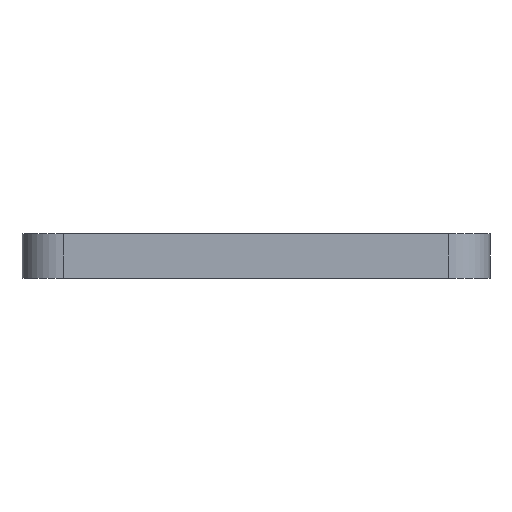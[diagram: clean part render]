
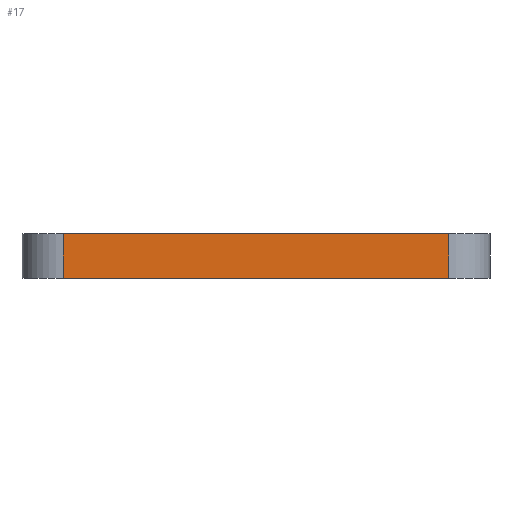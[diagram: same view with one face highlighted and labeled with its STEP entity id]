
A CAD part, left-side view. The second image highlights one B-rep face of the part: STEP entity #17.
In plain terms, the highlighted planar face has unit normal (-1, 0, 0).
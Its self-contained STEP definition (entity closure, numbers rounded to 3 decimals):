
#17 = ADVANCED_FACE('',(#18),#32,.F.);
#18 = FACE_BOUND('',#19,.F.);
#19 = EDGE_LOOP('',(#20,#55,#83,#111));
#20 = ORIENTED_EDGE('',*,*,#21,.F.);
#21 = EDGE_CURVE('',#22,#24,#26,.T.);
#22 = VERTEX_POINT('',#23);
#23 = CARTESIAN_POINT('',(-18.,-14.,3.2));
#24 = VERTEX_POINT('',#25);
#25 = CARTESIAN_POINT('',(-18.,14.,3.2));
#26 = SURFACE_CURVE('',#27,(#31,#43),.PCURVE_S1.);
#27 = LINE('',#28,#29);
#28 = CARTESIAN_POINT('',(-18.,-17.,3.2));
#29 = VECTOR('',#30,1.);
#30 = DIRECTION('',(0.,1.,0.));
#31 = PCURVE('',#32,#37);
#32 = PLANE('',#33);
#33 = AXIS2_PLACEMENT_3D('',#34,#35,#36);
#34 = CARTESIAN_POINT('',(-18.,-17.,0.));
#35 = DIRECTION('',(1.,0.,0.));
#36 = DIRECTION('',(0.,0.,1.));
#37 = DEFINITIONAL_REPRESENTATION('',(#38),#42);
#38 = LINE('',#39,#40);
#39 = CARTESIAN_POINT('',(3.2,0.));
#40 = VECTOR('',#41,1.);
#41 = DIRECTION('',(0.,-1.));
#42 = ( GEOMETRIC_REPRESENTATION_CONTEXT(2) 
PARAMETRIC_REPRESENTATION_CONTEXT() REPRESENTATION_CONTEXT('2D SPACE',''
  ) );
#43 = PCURVE('',#44,#49);
#44 = PLANE('',#45);
#45 = AXIS2_PLACEMENT_3D('',#46,#47,#48);
#46 = CARTESIAN_POINT('',(-18.,-17.,3.2));
#47 = DIRECTION('',(0.,0.,1.));
#48 = DIRECTION('',(1.,0.,0.));
#49 = DEFINITIONAL_REPRESENTATION('',(#50),#54);
#50 = LINE('',#51,#52);
#51 = CARTESIAN_POINT('',(0.,0.));
#52 = VECTOR('',#53,1.);
#53 = DIRECTION('',(0.,1.));
#54 = ( GEOMETRIC_REPRESENTATION_CONTEXT(2) 
PARAMETRIC_REPRESENTATION_CONTEXT() REPRESENTATION_CONTEXT('2D SPACE',''
  ) );
#55 = ORIENTED_EDGE('',*,*,#56,.F.);
#56 = EDGE_CURVE('',#57,#22,#59,.T.);
#57 = VERTEX_POINT('',#58);
#58 = CARTESIAN_POINT('',(-18.,-14.,0.));
#59 = SURFACE_CURVE('',#60,(#64,#71),.PCURVE_S1.);
#60 = LINE('',#61,#62);
#61 = CARTESIAN_POINT('',(-18.,-14.,0.));
#62 = VECTOR('',#63,1.);
#63 = DIRECTION('',(0.,0.,1.));
#64 = PCURVE('',#32,#65);
#65 = DEFINITIONAL_REPRESENTATION('',(#66),#70);
#66 = LINE('',#67,#68);
#67 = CARTESIAN_POINT('',(0.,-3.));
#68 = VECTOR('',#69,1.);
#69 = DIRECTION('',(1.,0.));
#70 = ( GEOMETRIC_REPRESENTATION_CONTEXT(2) 
PARAMETRIC_REPRESENTATION_CONTEXT() REPRESENTATION_CONTEXT('2D SPACE',''
  ) );
#71 = PCURVE('',#72,#77);
#72 = CYLINDRICAL_SURFACE('',#73,3.);
#73 = AXIS2_PLACEMENT_3D('',#74,#75,#76);
#74 = CARTESIAN_POINT('',(-15.,-14.,0.));
#75 = DIRECTION('',(0.,0.,1.));
#76 = DIRECTION('',(-1.,-0.,0.));
#77 = DEFINITIONAL_REPRESENTATION('',(#78),#82);
#78 = LINE('',#79,#80);
#79 = CARTESIAN_POINT('',(0.,0.));
#80 = VECTOR('',#81,1.);
#81 = DIRECTION('',(0.,1.));
#82 = ( GEOMETRIC_REPRESENTATION_CONTEXT(2) 
PARAMETRIC_REPRESENTATION_CONTEXT() REPRESENTATION_CONTEXT('2D SPACE',''
  ) );
#83 = ORIENTED_EDGE('',*,*,#84,.T.);
#84 = EDGE_CURVE('',#57,#85,#87,.T.);
#85 = VERTEX_POINT('',#86);
#86 = CARTESIAN_POINT('',(-18.,14.,0.));
#87 = SURFACE_CURVE('',#88,(#92,#99),.PCURVE_S1.);
#88 = LINE('',#89,#90);
#89 = CARTESIAN_POINT('',(-18.,-17.,0.));
#90 = VECTOR('',#91,1.);
#91 = DIRECTION('',(0.,1.,0.));
#92 = PCURVE('',#32,#93);
#93 = DEFINITIONAL_REPRESENTATION('',(#94),#98);
#94 = LINE('',#95,#96);
#95 = CARTESIAN_POINT('',(0.,0.));
#96 = VECTOR('',#97,1.);
#97 = DIRECTION('',(0.,-1.));
#98 = ( GEOMETRIC_REPRESENTATION_CONTEXT(2) 
PARAMETRIC_REPRESENTATION_CONTEXT() REPRESENTATION_CONTEXT('2D SPACE',''
  ) );
#99 = PCURVE('',#100,#105);
#100 = PLANE('',#101);
#101 = AXIS2_PLACEMENT_3D('',#102,#103,#104);
#102 = CARTESIAN_POINT('',(-18.,-17.,0.));
#103 = DIRECTION('',(0.,0.,1.));
#104 = DIRECTION('',(1.,0.,0.));
#105 = DEFINITIONAL_REPRESENTATION('',(#106),#110);
#106 = LINE('',#107,#108);
#107 = CARTESIAN_POINT('',(0.,0.));
#108 = VECTOR('',#109,1.);
#109 = DIRECTION('',(0.,1.));
#110 = ( GEOMETRIC_REPRESENTATION_CONTEXT(2) 
PARAMETRIC_REPRESENTATION_CONTEXT() REPRESENTATION_CONTEXT('2D SPACE',''
  ) );
#111 = ORIENTED_EDGE('',*,*,#112,.T.);
#112 = EDGE_CURVE('',#85,#24,#113,.T.);
#113 = SURFACE_CURVE('',#114,(#118,#125),.PCURVE_S1.);
#114 = LINE('',#115,#116);
#115 = CARTESIAN_POINT('',(-18.,14.,0.));
#116 = VECTOR('',#117,1.);
#117 = DIRECTION('',(0.,0.,1.));
#118 = PCURVE('',#32,#119);
#119 = DEFINITIONAL_REPRESENTATION('',(#120),#124);
#120 = LINE('',#121,#122);
#121 = CARTESIAN_POINT('',(0.,-31.));
#122 = VECTOR('',#123,1.);
#123 = DIRECTION('',(1.,0.));
#124 = ( GEOMETRIC_REPRESENTATION_CONTEXT(2) 
PARAMETRIC_REPRESENTATION_CONTEXT() REPRESENTATION_CONTEXT('2D SPACE',''
  ) );
#125 = PCURVE('',#126,#131);
#126 = CYLINDRICAL_SURFACE('',#127,3.);
#127 = AXIS2_PLACEMENT_3D('',#128,#129,#130);
#128 = CARTESIAN_POINT('',(-15.,14.,0.));
#129 = DIRECTION('',(0.,0.,1.));
#130 = DIRECTION('',(-1.,-0.,0.));
#131 = DEFINITIONAL_REPRESENTATION('',(#132),#136);
#132 = LINE('',#133,#134);
#133 = CARTESIAN_POINT('',(-0.,0.));
#134 = VECTOR('',#135,1.);
#135 = DIRECTION('',(-0.,1.));
#136 = ( GEOMETRIC_REPRESENTATION_CONTEXT(2) 
PARAMETRIC_REPRESENTATION_CONTEXT() REPRESENTATION_CONTEXT('2D SPACE',''
  ) );
